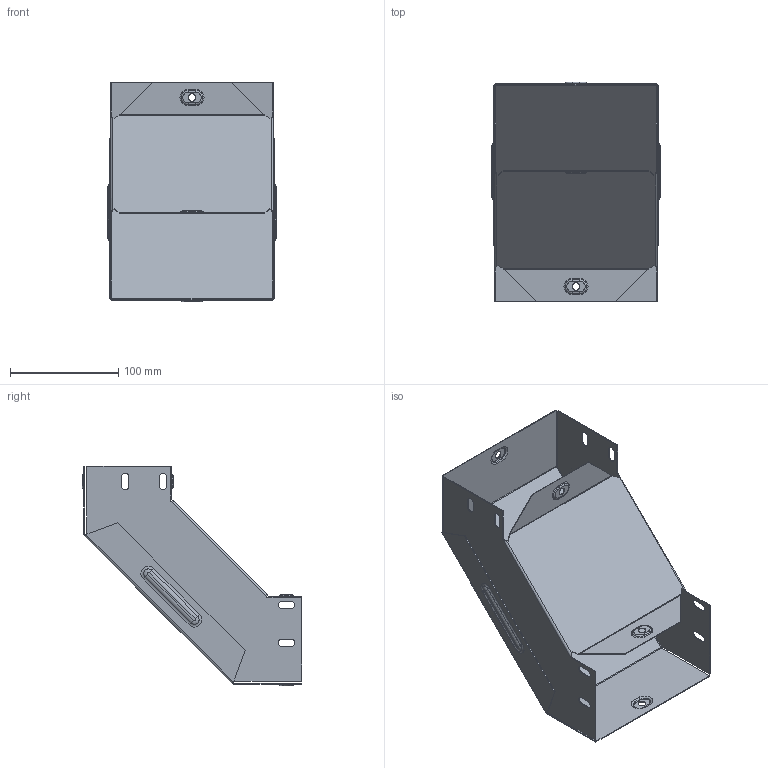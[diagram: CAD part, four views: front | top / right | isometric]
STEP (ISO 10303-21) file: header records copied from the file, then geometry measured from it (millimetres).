
FILE_DESCRIPTION (( 'STEP AP214' ), '1' );
FILE_NAME ('vo9080150_捘.STEP', '2019-06-10T09:08:27', ( '砐錪賧瘔蠈錪 Windows' ), ( '' ), 'SwSTEP 2.0', 'SolidWorks 2018', '' );
FILE_SCHEMA (( 'AUTOMOTIVE_DESIGN' ));
Length unit declared in the file: millimetre
Products named in the file (1): vo9080150_捘
Bounding box: 155.6 x 202.3 x 202.3 mm (x, y, z)
Volume: 97893.4 mm3; surface area: 247012.8 mm2
Topology: 2 solids, 2 shells, 280 faces, 660 edges, 400 vertices
Faces by surface type: cylinder 108, plane 100, torus 64, bspline 8
Entity records: 8251 total; most frequent: CARTESIAN_POINT 1589, DIRECTION 1470, ORIENTED_EDGE 1320, EDGE_CURVE 660, AXIS2_PLACEMENT_3D 569, VERTEX_POINT 400, LINE 332, VECTOR 332
